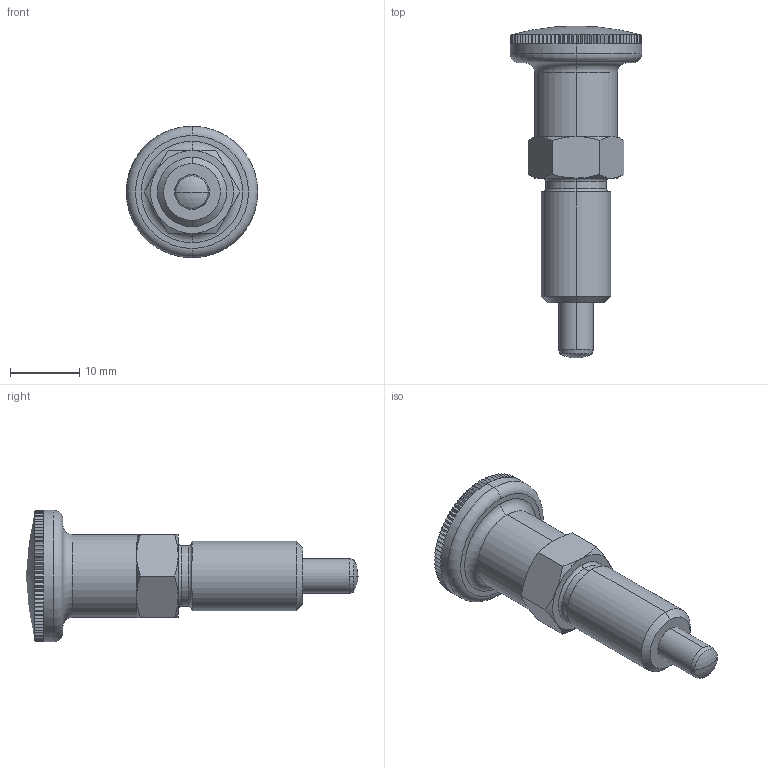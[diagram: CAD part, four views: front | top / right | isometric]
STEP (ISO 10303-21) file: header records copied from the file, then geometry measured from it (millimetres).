
FILE_DESCRIPTION (( 'STEP AP203' ), '1' );
FILE_NAME ('32690.W0227.step', '2011-03-25T12:24:02', ( 'Wixroyd' ), ( 'Wixroyd' ), 'SwSTEP 2.0', 'SolidWorks 2009', '' );
FILE_SCHEMA (( 'CONFIG_CONTROL_DESIGN' ));
Length unit declared in the file: millimetre
Products named in the file (4): Part1_3269.W227; Part3_3269.W227; Part2_3269.W227; 32690.W0227
Assembly tree (3 placements, depth 2):
  32690.W0227
    Part3_3269.W227
    Part1_3269.W227
    Part2_3269.W227
Bounding box: 19 x 48 x 19 mm (x, y, z)
Volume: 4652.2 mm3; surface area: 3998.8 mm2
Topology: 3 solids, 3 shells, 354 faces, 814 edges, 472 vertices
Faces by surface type: plane 305, cylinder 21, cone 16, torus 8, sphere 4
Entity records: 10352 total; most frequent: DIRECTION 1870, CARTESIAN_POINT 1766, ORIENTED_EDGE 1628, EDGE_CURVE 814, AXIS2_PLACEMENT_3D 720, VERTEX_POINT 472, VECTOR 430, LINE 430
